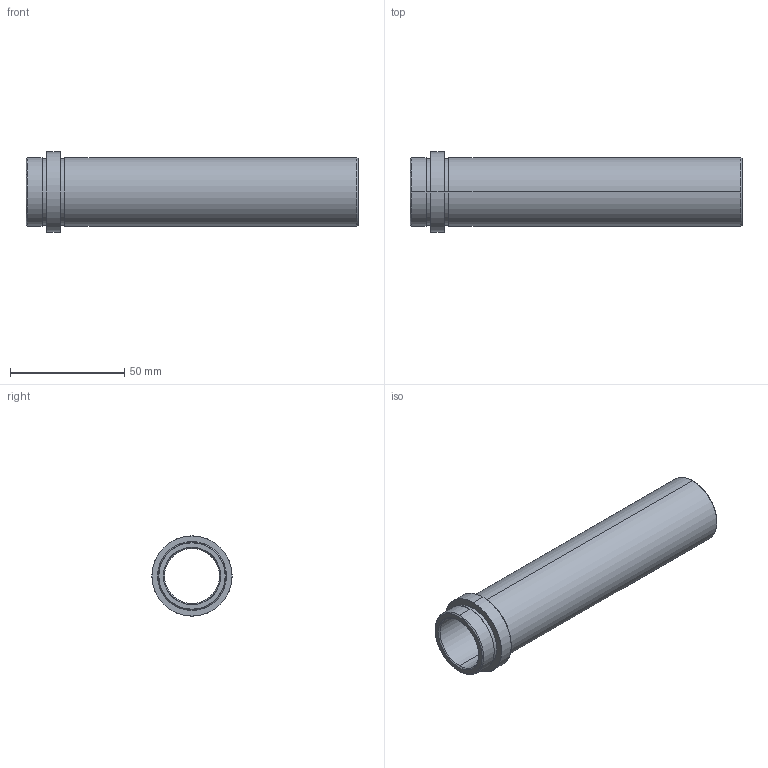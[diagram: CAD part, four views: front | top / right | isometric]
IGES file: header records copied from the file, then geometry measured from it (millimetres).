
Start section: SolidWorks IGES FILE using analytic representation for surfaces
Global section: file name: D:\zzzzz\Delta\D21\24\D21 - 24x136.IGS; native system: SolidWorks 2004 by SolidWorks Corporation; preprocessor: Version 5.3; author: Hkn; date: 080326.192837; units: millimetre
Bounding box: 145 x 35 x 35 mm (x, y, z)
Surface area: 25785.8 mm2 (no closed solid volume)
Topology: 0 solids, 0 shells, 26 faces, 784 edges, 784 vertices
Faces by surface type: revolution 20, bspline 6
